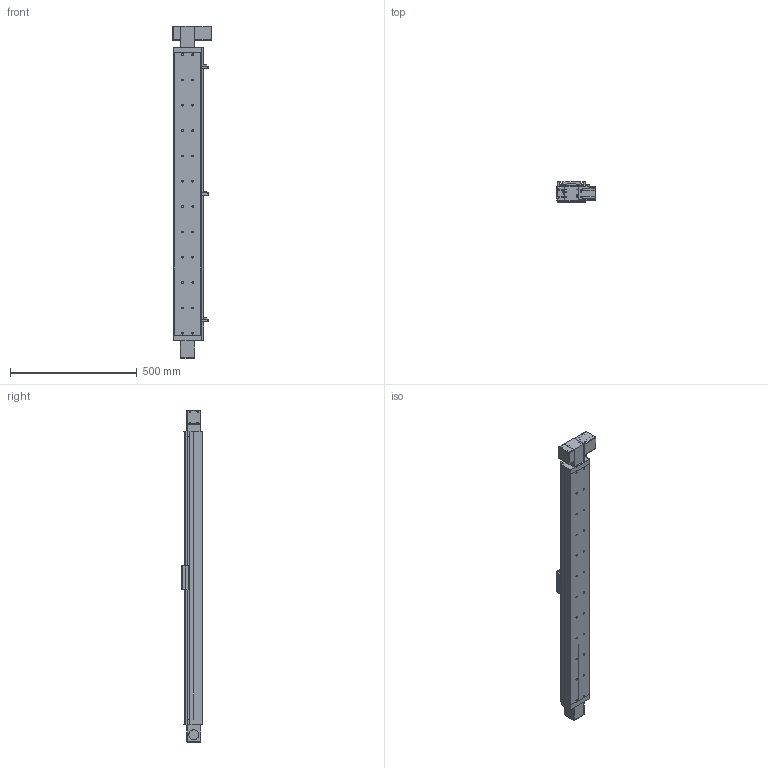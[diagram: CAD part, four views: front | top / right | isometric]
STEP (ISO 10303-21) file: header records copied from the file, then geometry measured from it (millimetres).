
FILE_DESCRIPTION((''),'2;1');
FILE_NAME('E:\uia actuator\UIA actuator 3d- 2015\Belt drive actuator\UIA110BR12(15)DC\UIA110BR12(15)DC-STEP FILE\UIA110BR12(15) stp file 13May16\UIA110BR12(15)DC-1000-M23-P13-C10-S.stp','2016-05-13T16:31:46',('h029'),(''),'Autodesk Inventor 11','Autodesk Inventor 11','');
FILE_SCHEMA(('AUTOMOTIVE_DESIGN { 1 0 10303 214 1 1 1 1 }'));
Length unit declared in the file: millimetre
Products named in the file (11): UIA110BR12(15)DC-1000; UIA110BR12(15)DC-1000-body; UIA110BR12(15)DC-1000-Sensor rail; UIA110B-Carriage; UIA110B- Sensor Flag; UIA110B-Cover; Motor mount; SOH-32C; SOH-32C-3; SOH-32C-1; SOH-32C-2
Assembly tree (10 placements, depth 3):
  UIA110BR12(15)DC-1000
    UIA110BR12(15)DC-1000-body
    UIA110BR12(15)DC-1000-Sensor rail
    UIA110B-Carriage
    UIA110B- Sensor Flag
    UIA110B-Cover
    Motor mount
    SOH-32C
      SOH-32C-3
      SOH-32C-1
      SOH-32C-2
Bounding box: 152 x 81 x 1311 mm (x, y, z)
Volume: 3953540.5 mm3; surface area: 1141418.3 mm2
Topology: 9 solids, 13 shells, 772 faces, 2170 edges, 1388 vertices
Faces by surface type: plane 479, cylinder 203, cone 42, bspline 40, sphere 8
Full cylindrical faces by diameter (mm): 2.459 x4, 3 x2, 3.242 x8, 3.5 x4, 4 x10, 4.5 x4, 4.917 x8, 5 x2, 6.35 x1, 6.5 x24, 7.5 x4, 10 x3, 11 x24, 12 x1, 20 x2, 32 x3, 37 x1, 38.1 x1, 39 x2, 43.5 x1, 46 x2
Entity records: 25978 total; most frequent: CARTESIAN_POINT 6713, DIRECTION 3939, ORIENTED_EDGE 3750, EDGE_CURVE 1875, AXIS2_PLACEMENT_3D 1360, VERTEX_POINT 1288, VECTOR 1219, LINE 1219
